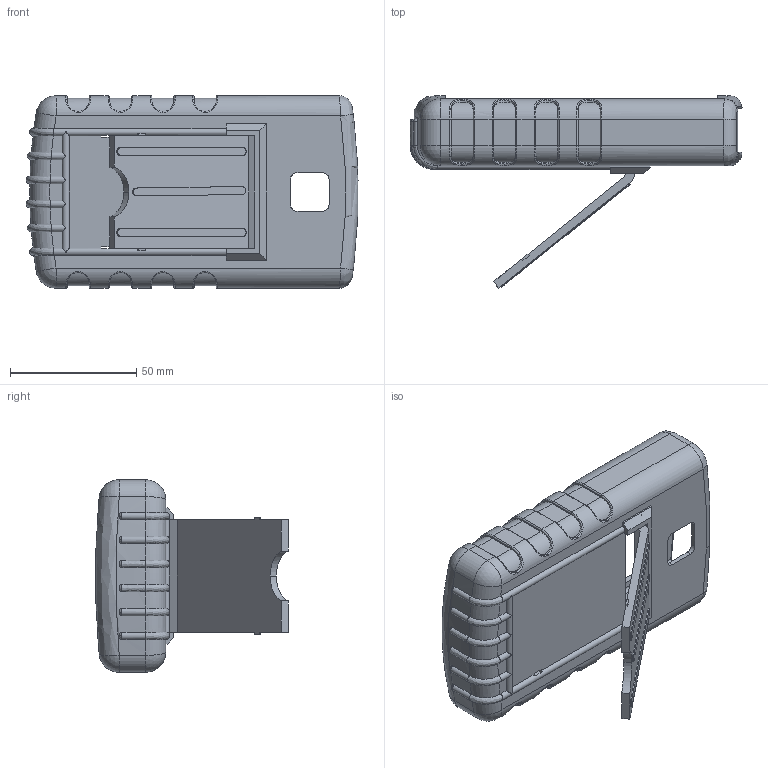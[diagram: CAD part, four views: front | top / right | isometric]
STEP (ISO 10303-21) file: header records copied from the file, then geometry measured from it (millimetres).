
FILE_DESCRIPTION (( 'STEP AP214' ), '1' );
FILE_NAME ('60 RBT.STEP', '2020-06-24T15:38:52', ( 'Rudy' ), ( '' ), 'SwSTEP 2.0', 'SolidWorks 2014', '' );
FILE_SCHEMA (( 'AUTOMOTIVE_DESIGN' ));
Length unit declared in the file: inch
Products named in the file (3): 60 Stand; 60 RBT
Assembly tree (2 placements, depth 2):
  60 RBT
    60 RBT
    60 Stand
Bounding box: 131.47 x 76.16 x 76.2 mm (x, y, z)
Volume: 71913.8 mm3; surface area: 46823.9 mm2
Topology: 2 solids, 2 shells, 477 faces, 1236 edges, 762 vertices
Faces by surface type: plane 183, cylinder 144, bspline 97, torus 49, sphere 4
Entity records: 21564 total; most frequent: CARTESIAN_POINT 10650, ORIENTED_EDGE 2468, DIRECTION 2025, EDGE_CURVE 1234, VERTEX_POINT 762, AXIS2_PLACEMENT_3D 751, VECTOR 523, LINE 523
